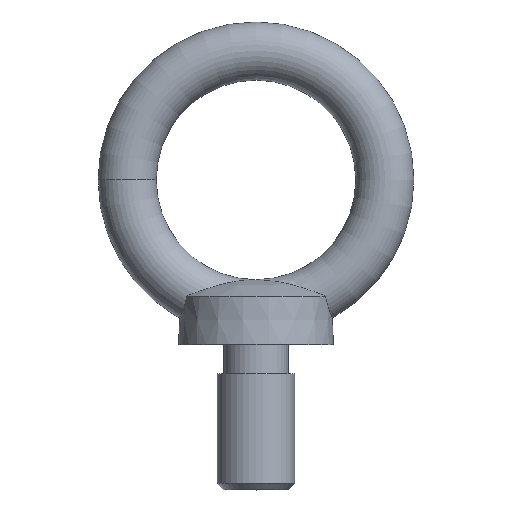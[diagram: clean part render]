
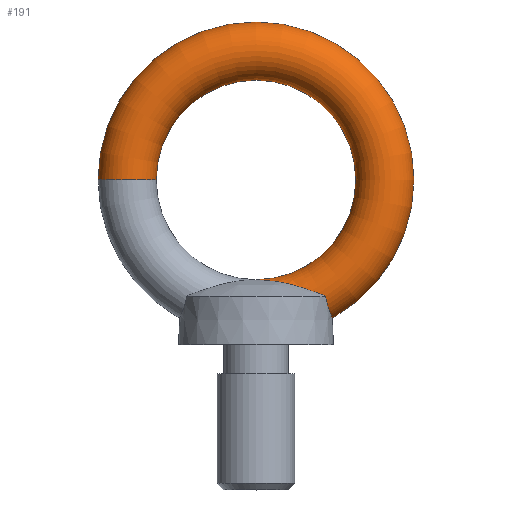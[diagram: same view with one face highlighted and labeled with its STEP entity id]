
A CAD part, top view. The second image highlights one B-rep face of the part: STEP entity #191.
In plain terms, the highlighted toroidal (fillet/blend) face has major radius 13.3 mm and minor radius 3 mm.
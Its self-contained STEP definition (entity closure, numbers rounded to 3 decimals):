
#15=TOROIDAL_SURFACE('',#235,13.3,3.);
#20=B_SPLINE_CURVE_WITH_KNOTS('',3,(#335,#336,#337,#338,#339,#340,#341,
#342,#343,#344,#345,#346,#347,#348),.UNSPECIFIED.,.F.,.F.,(4,2,2,2,2,2,
4),(0.,0.204,0.408,0.549,0.69,
0.766,0.773),.UNSPECIFIED.);
#22=B_SPLINE_CURVE_WITH_KNOTS('',3,(#366,#367,#368,#369,#370,#371,#372,
#373,#374,#375,#376,#377,#378,#379),.UNSPECIFIED.,.F.,.F.,(4,2,2,2,2,2,
4),(1.6,1.607,1.683,1.824,
1.965,2.169,2.373),.UNSPECIFIED.);
#24=B_SPLINE_CURVE_WITH_KNOTS('',3,(#417,#418,#419,#420,#421,#422,#423,
#424,#425,#426),.UNSPECIFIED.,.F.,.F.,(4,2,2,2,4),(-0.412,-0.346,
-0.231,-0.118,0.),.UNSPECIFIED.);
#25=B_SPLINE_CURVE_WITH_KNOTS('',3,(#428,#429,#430,#431,#432,#433,#434,
#435,#436,#437,#438,#439),.UNSPECIFIED.,.F.,.F.,(4,2,2,2,2,4),(-0.823,
-0.76,-0.696,-0.581,-0.463,
-0.412),.UNSPECIFIED.);
#42=FACE_OUTER_BOUND('',#55,.T.);
#55=EDGE_LOOP('',(#167,#168,#169,#170,#171,#172,#173));
#78=CIRCLE('',#236,3.);
#79=CIRCLE('',#237,10.3);
#87=VERTEX_POINT('',#318);
#88=VERTEX_POINT('',#333);
#90=VERTEX_POINT('',#365);
#97=VERTEX_POINT('',#416);
#98=VERTEX_POINT('',#441);
#108=EDGE_CURVE('',#87,#88,#20,.T.);
#110=EDGE_CURVE('',#90,#87,#22,.T.);
#120=EDGE_CURVE('',#97,#90,#24,.T.);
#122=EDGE_CURVE('',#88,#97,#25,.T.);
#123=EDGE_CURVE('',#98,#98,#78,.T.);
#124=EDGE_CURVE('',#98,#87,#79,.T.);
#167=ORIENTED_EDGE('',*,*,#123,.F.);
#168=ORIENTED_EDGE('',*,*,#124,.T.);
#169=ORIENTED_EDGE('',*,*,#108,.T.);
#170=ORIENTED_EDGE('',*,*,#122,.T.);
#171=ORIENTED_EDGE('',*,*,#120,.T.);
#172=ORIENTED_EDGE('',*,*,#110,.T.);
#173=ORIENTED_EDGE('',*,*,#124,.F.);
#191=ADVANCED_FACE('',(#42),#15,.T.);
#235=AXIS2_PLACEMENT_3D('',#440,#290,#291);
#236=AXIS2_PLACEMENT_3D('',#442,#292,#293);
#237=AXIS2_PLACEMENT_3D('',#443,#294,#295);
#290=DIRECTION('center_axis',(0.,0.,1.));
#291=DIRECTION('ref_axis',(1.,0.,0.));
#292=DIRECTION('center_axis',(0.,-1.,0.));
#293=DIRECTION('ref_axis',(-1.,0.,0.));
#294=DIRECTION('center_axis',(0.,0.,-1.));
#295=DIRECTION('ref_axis',(1.,0.,0.));
#318=CARTESIAN_POINT('',(0.,-10.3,0.));
#333=CARTESIAN_POINT('',(7.179,-12.,2.921));
#335=CARTESIAN_POINT('Ctrl Pts',(0.,-10.3,0.));
#336=CARTESIAN_POINT('Ctrl Pts',(0.548,-10.3,0.403));
#337=CARTESIAN_POINT('Ctrl Pts',(1.15,-10.34,0.847));
#338=CARTESIAN_POINT('Ctrl Pts',(2.381,-10.514,1.665));
#339=CARTESIAN_POINT('Ctrl Pts',(3.012,-10.648,2.036));
#340=CARTESIAN_POINT('Ctrl Pts',(4.027,-10.912,2.508));
#341=CARTESIAN_POINT('Ctrl Pts',(4.491,-11.048,2.687));
#342=CARTESIAN_POINT('Ctrl Pts',(5.434,-11.353,2.934));
#343=CARTESIAN_POINT('Ctrl Pts',(5.913,-11.521,3.));
#344=CARTESIAN_POINT('Ctrl Pts',(6.591,-11.773,3.));
#345=CARTESIAN_POINT('Ctrl Pts',(6.851,-11.872,2.981));
#346=CARTESIAN_POINT('Ctrl Pts',(7.13,-11.981,2.931));
#347=CARTESIAN_POINT('Ctrl Pts',(7.154,-11.991,2.926));
#348=CARTESIAN_POINT('Ctrl Pts',(7.179,-12.,2.921));
#365=CARTESIAN_POINT('',(7.179,-12.,-2.921));
#366=CARTESIAN_POINT('Ctrl Pts',(7.179,-12.,-2.921));
#367=CARTESIAN_POINT('Ctrl Pts',(7.154,-11.991,-2.926));
#368=CARTESIAN_POINT('Ctrl Pts',(7.13,-11.981,-2.931));
#369=CARTESIAN_POINT('Ctrl Pts',(6.851,-11.872,-2.981));
#370=CARTESIAN_POINT('Ctrl Pts',(6.591,-11.773,-3.));
#371=CARTESIAN_POINT('Ctrl Pts',(5.913,-11.521,-3.));
#372=CARTESIAN_POINT('Ctrl Pts',(5.434,-11.353,-2.934));
#373=CARTESIAN_POINT('Ctrl Pts',(4.491,-11.048,-2.687));
#374=CARTESIAN_POINT('Ctrl Pts',(4.027,-10.912,-2.508));
#375=CARTESIAN_POINT('Ctrl Pts',(3.012,-10.648,-2.036));
#376=CARTESIAN_POINT('Ctrl Pts',(2.381,-10.514,-1.665));
#377=CARTESIAN_POINT('Ctrl Pts',(1.15,-10.34,-0.847));
#378=CARTESIAN_POINT('Ctrl Pts',(0.548,-10.3,-0.403));
#379=CARTESIAN_POINT('Ctrl Pts',(0.,-10.3,0.));
#416=CARTESIAN_POINT('',(7.864,-14.278,0.));
#417=CARTESIAN_POINT('Ctrl Pts',(7.864,-14.278,0.));
#418=CARTESIAN_POINT('Ctrl Pts',(7.864,-14.278,-0.217));
#419=CARTESIAN_POINT('Ctrl Pts',(7.854,-14.256,-0.434));
#420=CARTESIAN_POINT('Ctrl Pts',(7.799,-14.138,-1.021));
#421=CARTESIAN_POINT('Ctrl Pts',(7.735,-13.998,-1.376));
#422=CARTESIAN_POINT('Ctrl Pts',(7.577,-13.599,-2.));
#423=CARTESIAN_POINT('Ctrl Pts',(7.486,-13.346,-2.265));
#424=CARTESIAN_POINT('Ctrl Pts',(7.311,-12.732,-2.69));
#425=CARTESIAN_POINT('Ctrl Pts',(7.233,-12.38,-2.838));
#426=CARTESIAN_POINT('Ctrl Pts',(7.179,-12.,-2.921));
#428=CARTESIAN_POINT('Ctrl Pts',(7.179,-12.,2.921));
#429=CARTESIAN_POINT('Ctrl Pts',(7.208,-12.203,2.877));
#430=CARTESIAN_POINT('Ctrl Pts',(7.244,-12.4,2.813));
#431=CARTESIAN_POINT('Ctrl Pts',(7.327,-12.778,2.645));
#432=CARTESIAN_POINT('Ctrl Pts',(7.373,-12.956,2.542));
#433=CARTESIAN_POINT('Ctrl Pts',(7.51,-13.42,2.196));
#434=CARTESIAN_POINT('Ctrl Pts',(7.603,-13.669,1.915));
#435=CARTESIAN_POINT('Ctrl Pts',(7.758,-14.05,1.26));
#436=CARTESIAN_POINT('Ctrl Pts',(7.818,-14.178,0.893));
#437=CARTESIAN_POINT('Ctrl Pts',(7.858,-14.264,0.341));
#438=CARTESIAN_POINT('Ctrl Pts',(7.864,-14.278,0.17));
#439=CARTESIAN_POINT('Ctrl Pts',(7.864,-14.278,0.));
#440=CARTESIAN_POINT('Origin',(0.,0.,0.));
#441=CARTESIAN_POINT('',(-10.3,0.,0.));
#442=CARTESIAN_POINT('Origin',(-13.3,0.,0.));
#443=CARTESIAN_POINT('Origin',(0.,0.,0.));
